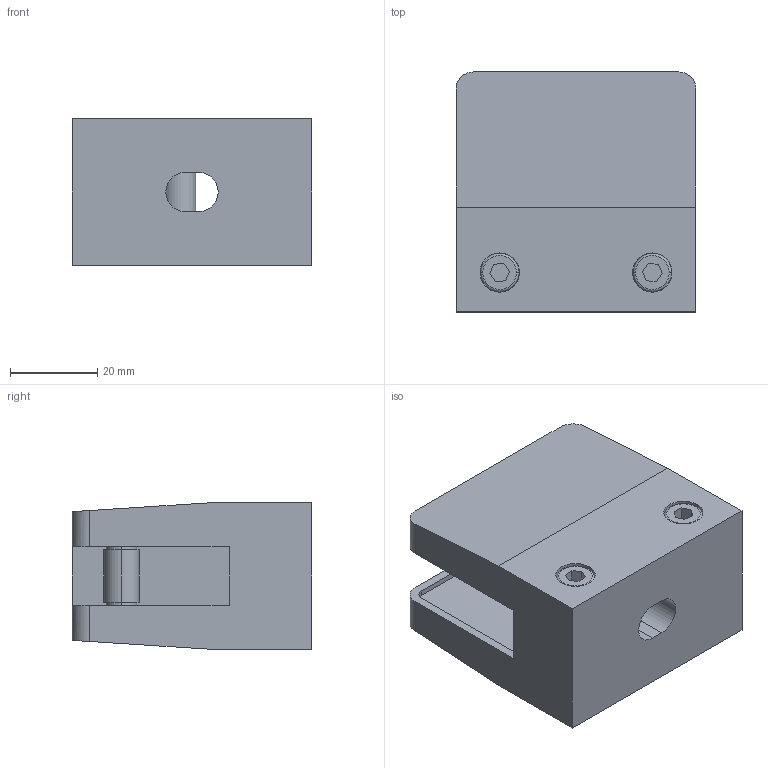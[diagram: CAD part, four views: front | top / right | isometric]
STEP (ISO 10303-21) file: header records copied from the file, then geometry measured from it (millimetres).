
FILE_DESCRIPTION (( 'STEP AP203' ), '1' );
FILE_NAME ('3D_GG4522_G Flach_188753870.STEP', '2024-11-01T08:43:29', ( '' ), ( '' ), 'SwSTEP 2.0', 'SolidWorks 2023', '' );
FILE_SCHEMA (( 'CONFIG_CONTROL_DESIGN' ));
Length unit declared in the file: millimetre
Products named in the file (1): 3D_GG4522_G Flach_188753870
Bounding box: 55 x 55 x 33.5 mm (x, y, z)
Volume: 69432.5 mm3; surface area: 20135.5 mm2
Topology: 3 solids, 3 shells, 89 faces, 205 edges, 134 vertices
Faces by surface type: plane 50, cylinder 31, torus 4, cone 4
Entity records: 2605 total; most frequent: DIRECTION 450, CARTESIAN_POINT 441, ORIENTED_EDGE 410, EDGE_CURVE 205, AXIS2_PLACEMENT_3D 159, VERTEX_POINT 134, VECTOR 132, LINE 132
